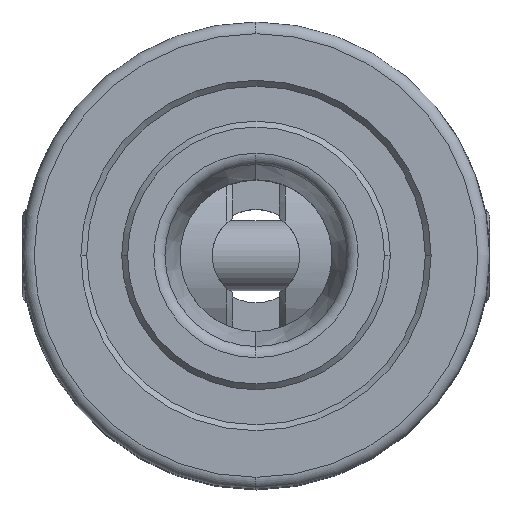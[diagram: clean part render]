
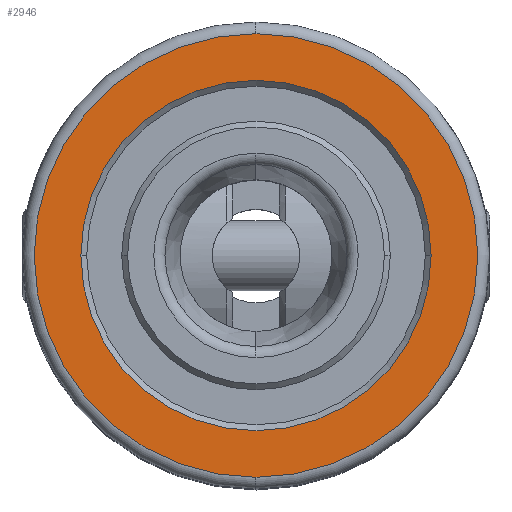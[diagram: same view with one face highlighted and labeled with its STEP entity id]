
A CAD part, top view. The second image highlights one B-rep face of the part: STEP entity #2946.
In plain terms, the highlighted planar face has unit normal (0, 0, 1).
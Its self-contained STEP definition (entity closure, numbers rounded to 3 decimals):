
#101 = AXIS2_PLACEMENT_3D ( 'NONE', #2267, #5259, #5904 ) ;
#183 = PLANE ( 'NONE',  #101 ) ;
#599 = ORIENTED_EDGE ( 'NONE', *, *, #8573, .T. ) ;
#606 = EDGE_CURVE ( 'NONE', #3625, #4364, #7266, .T. ) ;
#613 = CARTESIAN_POINT ( 'NONE',  ( 0., -19., 50. ) ) ;
#740 = DIRECTION ( 'NONE',  ( 0., 0., 1. ) ) ;
#1055 = DIRECTION ( 'NONE',  ( 0., 0., -1. ) ) ;
#1150 = ORIENTED_EDGE ( 'NONE', *, *, #4191, .T. ) ;
#1282 = DIRECTION ( 'NONE',  ( 1., 0., 0. ) ) ;
#1381 = ORIENTED_EDGE ( 'NONE', *, *, #606, .T. ) ;
#1872 = CARTESIAN_POINT ( 'NONE',  ( 0., 19., 50. ) ) ;
#2267 = CARTESIAN_POINT ( 'NONE',  ( 6.5, 0., 50. ) ) ;
#2596 = AXIS2_PLACEMENT_3D ( 'NONE', #4299, #2730, #1282 ) ;
#2730 = DIRECTION ( 'NONE',  ( 0., 0., -1. ) ) ;
#2946 = ADVANCED_FACE ( 'NONE', ( #6044, #6674 ), #183, .T. ) ;
#3625 = VERTEX_POINT ( 'NONE', #1872 ) ;
#3664 = CARTESIAN_POINT ( 'NONE',  ( 0., 0., 50. ) ) ;
#4191 = EDGE_CURVE ( 'NONE', #6445, #7981, #6820, .T. ) ;
#4299 = CARTESIAN_POINT ( 'NONE',  ( 0., 0., 50. ) ) ;
#4364 = VERTEX_POINT ( 'NONE', #613 ) ;
#5147 = EDGE_CURVE ( 'NONE', #7981, #6445, #7751, .T. ) ;
#5259 = DIRECTION ( 'NONE',  ( 0., 0., 1. ) ) ;
#5404 = CARTESIAN_POINT ( 'NONE',  ( 0., 0., 50. ) ) ;
#5536 = EDGE_LOOP ( 'NONE', ( #9375, #1150 ) ) ;
#5722 = AXIS2_PLACEMENT_3D ( 'NONE', #5404, #9086, #7651 ) ;
#5904 = DIRECTION ( 'NONE',  ( 0., -1., 0. ) ) ;
#6044 = FACE_OUTER_BOUND ( 'NONE', #9110, .T. ) ;
#6331 = DIRECTION ( 'NONE',  ( 1., 0., 0. ) ) ;
#6445 = VERTEX_POINT ( 'NONE', #8597 ) ;
#6561 = DIRECTION ( 'NONE',  ( 0., -1., 0. ) ) ;
#6674 = FACE_BOUND ( 'NONE', #5536, .T. ) ;
#6820 = CIRCLE ( 'NONE', #7135, 15. ) ;
#7135 = AXIS2_PLACEMENT_3D ( 'NONE', #7748, #1055, #6331 ) ;
#7166 = AXIS2_PLACEMENT_3D ( 'NONE', #3664, #740, #6561 ) ;
#7266 = CIRCLE ( 'NONE', #5722, 19. ) ;
#7651 = DIRECTION ( 'NONE',  ( 0., -1., 0. ) ) ;
#7748 = CARTESIAN_POINT ( 'NONE',  ( 0., 0., 50. ) ) ;
#7751 = CIRCLE ( 'NONE', #2596, 15. ) ;
#7981 = VERTEX_POINT ( 'NONE', #9236 ) ;
#8573 = EDGE_CURVE ( 'NONE', #4364, #3625, #8903, .T. ) ;
#8597 = CARTESIAN_POINT ( 'NONE',  ( 15., 0., 50. ) ) ;
#8903 = CIRCLE ( 'NONE', #7166, 19. ) ;
#9086 = DIRECTION ( 'NONE',  ( 0., 0., 1. ) ) ;
#9110 = EDGE_LOOP ( 'NONE', ( #599, #1381 ) ) ;
#9236 = CARTESIAN_POINT ( 'NONE',  ( -15., 0., 50. ) ) ;
#9375 = ORIENTED_EDGE ( 'NONE', *, *, #5147, .T. ) ;
